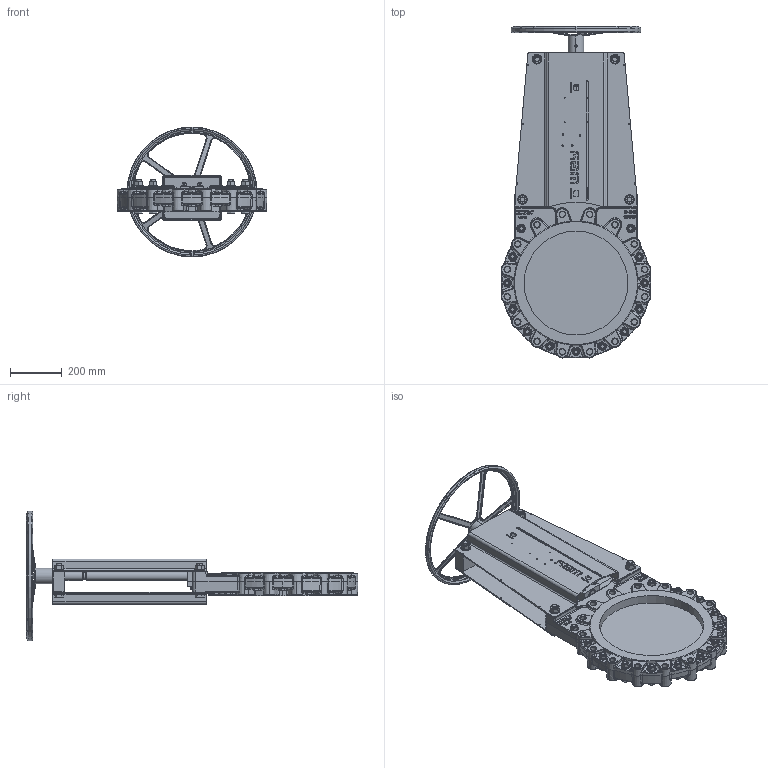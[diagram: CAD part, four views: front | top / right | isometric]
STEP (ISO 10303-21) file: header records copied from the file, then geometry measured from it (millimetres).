
FILE_DESCRIPTION (( 'STEP AP203' ), '1' );
FILE_NAME ('VMA DN 400 DH500.step', '2013-09-30T09:16:34', ( 'admin' ), ( '' ), 'SwSTEP 2.0', 'SolidWorks 2013', '' );
FILE_SCHEMA (( 'CONFIG_CONTROL_DESIGN' ));
Products named in the file (1): VMA DN 400 DH500
Bounding box: 577.33 x 1278.15 x 500 mm (x, y, z)
Volume: 21013269.4 mm3; surface area: 2829033.1 mm2
Topology: 78 solids, 79 shells, 3958 faces, 9473 edges, 5623 vertices
Faces by surface type: plane 1275, cylinder 960, bspline 802, cone 627, torus 284, sphere 10
Entity records: 154738 total; most frequent: CARTESIAN_POINT 69246, ORIENTED_EDGE 18606, DIRECTION 16518, EDGE_CURVE 9303, AXIS2_PLACEMENT_3D 6536, VERTEX_POINT 5623, EDGE_LOOP 4342, FACE_OUTER_BOUND 3958
